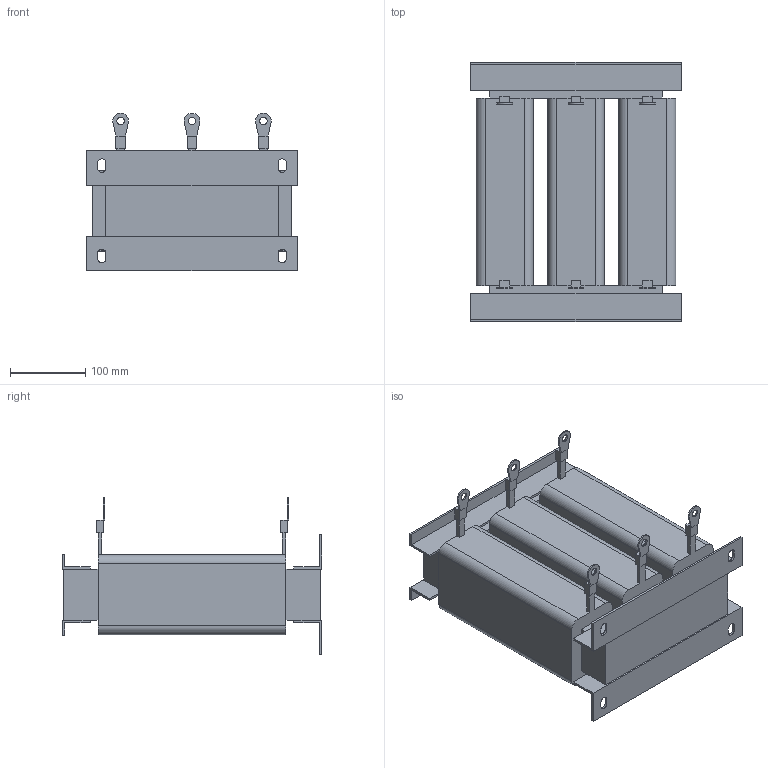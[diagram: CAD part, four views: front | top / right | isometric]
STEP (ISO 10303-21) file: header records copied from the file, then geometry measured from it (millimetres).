
FILE_DESCRIPTION(/* description */ (''),/* implementation_level */ '2;1');
FILE_NAME(/* name */ 'ACO-0063-T6-4.stp',/* time_stamp */ '2025-01-23T15:59:46+04:00',/* author */ ('Александр (огранич)'),/* organization */ (''),/* preprocessor_version */ 'ST-DEVELOPER v19.2',/* originating_system */ 'Autodesk Inventor 2024',/* authorisation */ '');
FILE_SCHEMA (('AUTOMOTIVE_DESIGN { 1 0 10303 214 3 1 1 }'));
Length unit declared in the file: millimetre
Products named in the file (1): ACO-0015-T4-4
Bounding box: 280 x 345 x 209.96 mm (x, y, z)
Volume: 7693466 mm3; surface area: 481579.5 mm2
Topology: 7 solids, 7 shells, 190 faces, 498 edges, 324 vertices
Faces by surface type: plane 158, cylinder 32
Full cylindrical faces by diameter (mm): 10 x6
Entity records: 5839 total; most frequent: CARTESIAN_POINT 1013, ORIENTED_EDGE 996, DIRECTION 944, EDGE_CURVE 498, LINE 434, VECTOR 434, VERTEX_POINT 324, AXIS2_PLACEMENT_3D 255
